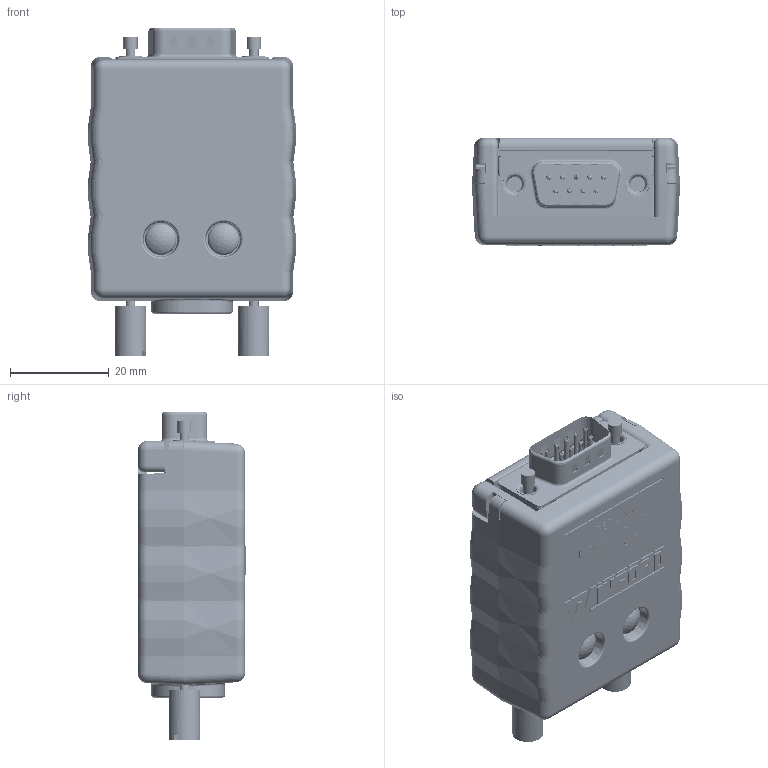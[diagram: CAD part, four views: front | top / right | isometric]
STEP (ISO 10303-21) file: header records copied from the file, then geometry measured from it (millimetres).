
FILE_DESCRIPTION (( 'STEP AP214' ), '1' );
FILE_NAME ('brkegd9m-t_rev_a.stp', '2021-08-28T21:52:57', ( '' ), ( '' ), 'SwSTEP 2.0', 'SolidWorks 2017', '' );
FILE_SCHEMA (( 'AUTOMOTIVE_DESIGN' ));
Length unit declared in the file: inch
Products named in the file (12): BRKEGD9M Assembly_brkegd9m-t_rev_a; brkegd9m-t_rev_a; BRKEGD9M Board; thumbscrew; 3.5 x 5 Nylon 6 Snap Rivet; Enclosure #4-40 Insert_92395A112; ECB9A2 Base; Enclosure_Screw Ph 4-40 x .625_90272A112; Spring Terminal 5; DB9 Male Nut; ECB9A2 Cover; brkegd9m-t Label
Assembly tree (16 placements, depth 3):
  brkegd9m-t_rev_a
    ECB9A2 Base
    ECB9A2 Cover
    3.5 x 5 Nylon 6 Snap Rivet  x2
    Enclosure_Screw Ph 4-40 x .625_90272A112  x2
    Enclosure #4-40 Insert_92395A112  x2
    brkegd9m-t Label
    BRKEGD9M Assembly_brkegd9m-t_rev_a
      BRKEGD9M Board
      DB9 Male Nut
      thumbscrew  x2
      Spring Terminal 5  x2
Bounding box: 42.19 x 22 x 66.61 mm (x, y, z)
Volume: 17139.3 mm3; surface area: 30642.7 mm2
Topology: 18 solids, 115 shells, 9211 faces, 23636 edges, 14783 vertices
Faces by surface type: plane 3538, bspline 2949, cylinder 2314, torus 168, cone 122, sphere 120
Entity records: 321142 total; most frequent: CARTESIAN_POINT 144355, ORIENTED_EDGE 32238, DIRECTION 23495, EDGE_CURVE 16725, VERTEX_POINT 10643, LINE 8713, VECTOR 8713, AXIS2_PLACEMENT_3D 7391
